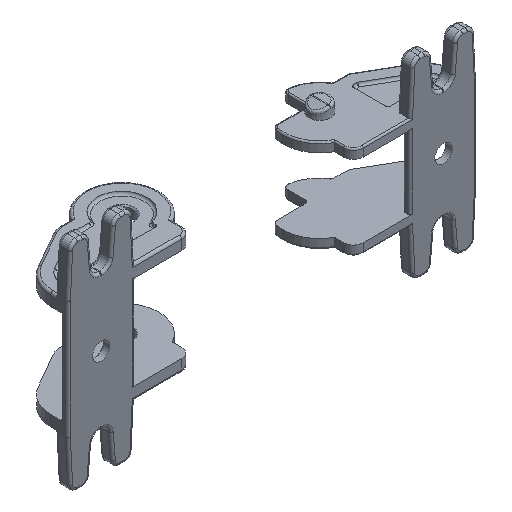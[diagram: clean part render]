
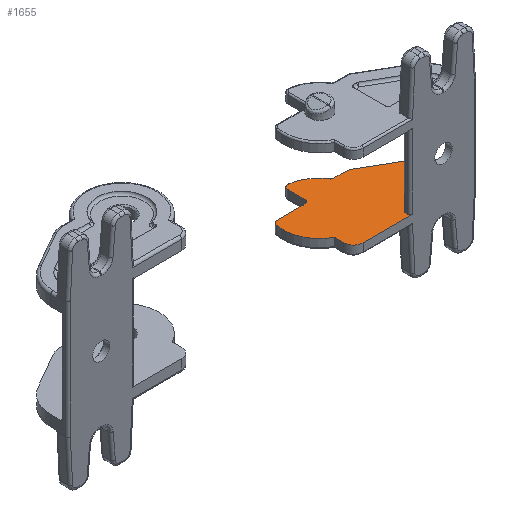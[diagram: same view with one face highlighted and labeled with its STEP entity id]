
A CAD part, isometric view. The second image highlights one B-rep face of the part: STEP entity #1655.
In plain terms, the highlighted planar face has unit normal (0, 0, 1).
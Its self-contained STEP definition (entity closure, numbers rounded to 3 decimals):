
#297=PLANE('',#6423);
#559=FACE_OUTER_BOUND('',#2221,.T.);
#848=LINE('',#9544,#1208);
#887=LINE('',#9666,#1247);
#953=LINE('',#9959,#1313);
#956=LINE('',#9967,#1316);
#978=LINE('',#10247,#1338);
#981=LINE('',#10253,#1341);
#987=LINE('',#10271,#1347);
#993=LINE('',#10294,#1353);
#998=LINE('',#10309,#1358);
#1208=VECTOR('',#7531,1.);
#1247=VECTOR('',#7618,1.);
#1313=VECTOR('',#7824,1.);
#1316=VECTOR('',#7831,1.);
#1338=VECTOR('',#8101,1.);
#1341=VECTOR('',#8106,1.);
#1347=VECTOR('',#8120,1.);
#1353=VECTOR('',#8134,1.);
#1358=VECTOR('',#8147,1.);
#1655=ADVANCED_FACE('',(#559),#297,.F.);
#2221=EDGE_LOOP('',(#3576,#3577,#3578,#3579,#3580,#3581,#3582,#3583,#3584,
#3585,#3586,#3587,#3588,#3589,#3590,#3591,#3592,#3593,#3594,#3595,#3596,
#3597));
#3576=ORIENTED_EDGE('',*,*,#5180,.T.);
#3577=ORIENTED_EDGE('',*,*,#5206,.F.);
#3578=ORIENTED_EDGE('',*,*,#5184,.T.);
#3579=ORIENTED_EDGE('',*,*,#5207,.F.);
#3580=ORIENTED_EDGE('',*,*,#5188,.T.);
#3581=ORIENTED_EDGE('',*,*,#5208,.F.);
#3582=ORIENTED_EDGE('',*,*,#5192,.T.);
#3583=ORIENTED_EDGE('',*,*,#5197,.F.);
#3584=ORIENTED_EDGE('',*,*,#5209,.F.);
#3585=ORIENTED_EDGE('',*,*,#5200,.T.);
#3586=ORIENTED_EDGE('',*,*,#5204,.T.);
#3587=ORIENTED_EDGE('',*,*,#5210,.F.);
#3588=ORIENTED_EDGE('',*,*,#4908,.T.);
#3589=ORIENTED_EDGE('',*,*,#5211,.T.);
#3590=ORIENTED_EDGE('',*,*,#5081,.F.);
#3591=ORIENTED_EDGE('',*,*,#5212,.T.);
#3592=ORIENTED_EDGE('',*,*,#5085,.F.);
#3593=ORIENTED_EDGE('',*,*,#5213,.T.);
#3594=ORIENTED_EDGE('',*,*,#4967,.T.);
#3595=ORIENTED_EDGE('',*,*,#5174,.T.);
#3596=ORIENTED_EDGE('',*,*,#5177,.T.);
#3597=ORIENTED_EDGE('',*,*,#5214,.F.);
#4250=VERTEX_POINT('',#9543);
#4251=VERTEX_POINT('',#9545);
#4309=VERTEX_POINT('',#9665);
#4310=VERTEX_POINT('',#9667);
#4402=VERTEX_POINT('',#9960);
#4403=VERTEX_POINT('',#9961);
#4405=VERTEX_POINT('',#9968);
#4406=VERTEX_POINT('',#9969);
#4434=VERTEX_POINT('',#10239);
#4436=VERTEX_POINT('',#10245);
#4438=VERTEX_POINT('',#10251);
#4440=VERTEX_POINT('',#10254);
#4442=VERTEX_POINT('',#10260);
#4444=VERTEX_POINT('',#10263);
#4446=VERTEX_POINT('',#10269);
#4448=VERTEX_POINT('',#10272);
#4450=VERTEX_POINT('',#10278);
#4452=VERTEX_POINT('',#10281);
#4455=VERTEX_POINT('',#10292);
#4457=VERTEX_POINT('',#10298);
#4459=VERTEX_POINT('',#10301);
#4461=VERTEX_POINT('',#10307);
#4908=EDGE_CURVE('',#4251,#4250,#848,.T.);
#4967=EDGE_CURVE('',#4310,#4309,#887,.T.);
#5081=EDGE_CURVE('',#4402,#4403,#953,.T.);
#5085=EDGE_CURVE('',#4405,#4406,#956,.T.);
#5174=EDGE_CURVE('',#4309,#4434,#5692,.T.);
#5177=EDGE_CURVE('',#4434,#4436,#978,.T.);
#5180=EDGE_CURVE('',#4440,#4438,#981,.T.);
#5184=EDGE_CURVE('',#4444,#4442,#5694,.T.);
#5188=EDGE_CURVE('',#4448,#4446,#987,.T.);
#5192=EDGE_CURVE('',#4452,#4450,#5696,.T.);
#5197=EDGE_CURVE('',#4455,#4450,#993,.T.);
#5200=EDGE_CURVE('',#4459,#4457,#5698,.T.);
#5204=EDGE_CURVE('',#4457,#4461,#998,.T.);
#5206=EDGE_CURVE('',#4444,#4438,#5700,.T.);
#5207=EDGE_CURVE('',#4448,#4442,#5701,.T.);
#5208=EDGE_CURVE('',#4452,#4446,#5702,.T.);
#5209=EDGE_CURVE('',#4459,#4455,#5703,.T.);
#5210=EDGE_CURVE('',#4251,#4461,#5704,.T.);
#5211=EDGE_CURVE('',#4250,#4403,#5705,.T.);
#5212=EDGE_CURVE('',#4402,#4406,#5706,.T.);
#5213=EDGE_CURVE('',#4405,#4310,#5707,.T.);
#5214=EDGE_CURVE('',#4440,#4436,#5708,.T.);
#5692=CIRCLE('',#6397,7.);
#5694=CIRCLE('',#6402,7.5);
#5696=CIRCLE('',#6406,2.45);
#5698=CIRCLE('',#6410,7.5);
#5700=CIRCLE('',#6414,0.5);
#5701=CIRCLE('',#6415,1.);
#5702=CIRCLE('',#6416,0.5);
#5703=CIRCLE('',#6417,1.);
#5704=CIRCLE('',#6418,2.);
#5705=CIRCLE('',#6419,0.5);
#5706=CIRCLE('',#6420,0.5);
#5707=CIRCLE('',#6421,0.5);
#5708=CIRCLE('',#6422,1.);
#6397=AXIS2_PLACEMENT_3D('',#10241,#8094,#8095);
#6402=AXIS2_PLACEMENT_3D('',#10262,#8112,#8113);
#6406=AXIS2_PLACEMENT_3D('',#10280,#8126,#8127);
#6410=AXIS2_PLACEMENT_3D('',#10300,#8139,#8140);
#6414=AXIS2_PLACEMENT_3D('',#10312,#8151,#8152);
#6415=AXIS2_PLACEMENT_3D('',#10313,#8153,#8154);
#6416=AXIS2_PLACEMENT_3D('',#10314,#8155,#8156);
#6417=AXIS2_PLACEMENT_3D('',#10315,#8157,#8158);
#6418=AXIS2_PLACEMENT_3D('',#10316,#8159,#8160);
#6419=AXIS2_PLACEMENT_3D('',#10317,#8161,#8162);
#6420=AXIS2_PLACEMENT_3D('',#10318,#8163,#8164);
#6421=AXIS2_PLACEMENT_3D('',#10319,#8165,#8166);
#6422=AXIS2_PLACEMENT_3D('',#10320,#8167,#8168);
#6423=AXIS2_PLACEMENT_3D('',#10321,#8169,#8170);
#7531=DIRECTION('',(1.,0.,0.));
#7618=DIRECTION('',(0.,1.,0.));
#7824=DIRECTION('',(0.,-1.,0.));
#7831=DIRECTION('',(-1.,0.,0.));
#8094=DIRECTION('',(0.,0.,1.));
#8095=DIRECTION('',(-1.,0.,0.));
#8101=DIRECTION('',(-0.866,0.5,0.));
#8106=DIRECTION('',(-1.,0.,0.));
#8112=DIRECTION('',(0.,0.,1.));
#8113=DIRECTION('',(-1.,0.,0.));
#8120=DIRECTION('',(0.,-1.,0.));
#8126=DIRECTION('',(0.,0.,1.));
#8127=DIRECTION('',(-1.,0.,0.));
#8134=DIRECTION('',(1.,0.,0.));
#8139=DIRECTION('',(0.,0.,1.));
#8140=DIRECTION('',(-1.,0.,0.));
#8147=DIRECTION('',(0.,-1.,0.));
#8151=DIRECTION('',(0.,0.,1.));
#8152=DIRECTION('',(-1.,0.,0.));
#8153=DIRECTION('',(0.,0.,-1.));
#8154=DIRECTION('',(-1.,0.,0.));
#8155=DIRECTION('',(0.,0.,1.));
#8156=DIRECTION('',(-1.,0.,0.));
#8157=DIRECTION('',(0.,0.,-1.));
#8158=DIRECTION('',(-1.,0.,0.));
#8159=DIRECTION('',(0.,0.,-1.));
#8160=DIRECTION('',(-1.,0.,0.));
#8161=DIRECTION('',(0.,0.,-1.));
#8162=DIRECTION('',(1.,0.,0.));
#8163=DIRECTION('',(0.,0.,-1.));
#8164=DIRECTION('',(1.,0.,0.));
#8165=DIRECTION('',(0.,0.,-1.));
#8166=DIRECTION('',(1.,0.,0.));
#8167=DIRECTION('',(0.,0.,-1.));
#8168=DIRECTION('',(-1.,0.,0.));
#8169=DIRECTION('',(0.,0.,-1.));
#8170=DIRECTION('',(-1.,0.,0.));
#9543=CARTESIAN_POINT('',(48.35,-10.42,-19.45));
#9544=CARTESIAN_POINT('',(54.35,-10.42,-19.45));
#9545=CARTESIAN_POINT('',(38.35,-10.42,-19.45));
#9665=CARTESIAN_POINT('',(61.35,-6.946,-19.45));
#9666=CARTESIAN_POINT('',(61.35,-9.65,-19.45));
#9667=CARTESIAN_POINT('',(61.35,-9.42,-19.45));
#9959=CARTESIAN_POINT('',(47.85,-9.65,-19.45));
#9960=CARTESIAN_POINT('',(47.85,-9.42,-19.45));
#9961=CARTESIAN_POINT('',(47.85,-9.92,-19.45));
#9967=CARTESIAN_POINT('',(61.35,-8.92,-19.45));
#9968=CARTESIAN_POINT('',(60.85,-8.92,-19.45));
#9969=CARTESIAN_POINT('',(48.35,-8.92,-19.45));
#10239=CARTESIAN_POINT('',(57.85,-0.884,-19.45));
#10241=CARTESIAN_POINT('',(54.35,-6.946,-19.45));
#10245=CARTESIAN_POINT('',(49.882,3.716,-19.45));
#10247=CARTESIAN_POINT('',(57.85,-0.884,-19.45));
#10251=CARTESIAN_POINT('',(46.714,3.85,-19.45));
#10253=CARTESIAN_POINT('',(49.65,3.85,-19.45));
#10254=CARTESIAN_POINT('',(49.382,3.85,-19.45));
#10260=CARTESIAN_POINT('',(41.154,7.411,-19.45));
#10262=CARTESIAN_POINT('',(40.,0.,-19.45));
#10263=CARTESIAN_POINT('',(46.294,4.078,-19.45));
#10269=CARTESIAN_POINT('',(40.,2.907,-19.45));
#10271=CARTESIAN_POINT('',(40.,7.5,-19.45));
#10272=CARTESIAN_POINT('',(40.,6.423,-19.45));
#10278=CARTESIAN_POINT('',(39.03,2.25,-19.45));
#10280=CARTESIAN_POINT('',(40.,0.,-19.45));
#10281=CARTESIAN_POINT('',(39.585,2.415,-19.45));
#10292=CARTESIAN_POINT('',(33.621,2.25,-19.45));
#10294=CARTESIAN_POINT('',(32.845,2.25,-19.45));
#10298=CARTESIAN_POINT('',(36.35,-6.552,-19.45));
#10300=CARTESIAN_POINT('',(40.,0.,-19.45));
#10301=CARTESIAN_POINT('',(32.64,1.442,-19.45));
#10307=CARTESIAN_POINT('',(36.35,-8.42,-19.45));
#10309=CARTESIAN_POINT('',(36.35,-6.552,-19.45));
#10312=CARTESIAN_POINT('',(46.714,4.35,-19.45));
#10313=CARTESIAN_POINT('',(41.,6.423,-19.45));
#10314=CARTESIAN_POINT('',(39.5,2.907,-19.45));
#10315=CARTESIAN_POINT('',(33.621,1.25,-19.45));
#10316=CARTESIAN_POINT('',(38.35,-8.42,-19.45));
#10317=CARTESIAN_POINT('',(48.35,-9.92,-19.45));
#10318=CARTESIAN_POINT('',(48.35,-9.42,-19.45));
#10319=CARTESIAN_POINT('',(60.85,-9.42,-19.45));
#10320=CARTESIAN_POINT('',(49.382,2.85,-19.45));
#10321=CARTESIAN_POINT('',(54.35,-6.946,-19.45));
